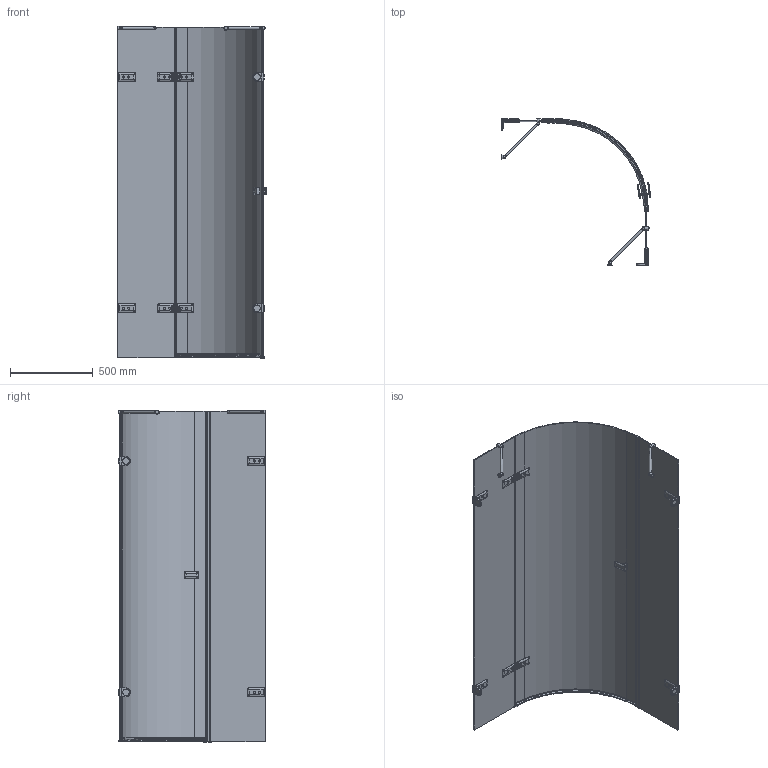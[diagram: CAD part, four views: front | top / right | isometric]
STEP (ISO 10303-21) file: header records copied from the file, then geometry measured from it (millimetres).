
FILE_DESCRIPTION(/* description */ (''),/* implementation_level */ '2;1');
FILE_NAME(/* name */ 'E:\Работа\Сергей\Душевые кабинки\! Работа\!!\TREND ROUND GK-863\TREND ROUND GK-863 правая модель\TREND ROUND GK-863 ПРАВАЯ-3D.stp',/* time_stamp */ '2017-11-18T10:01:44+03:00',/* author */ ('PC'),/* organization */ (''),/* preprocessor_version */ 'ST-DEVELOPER v15.2',/* originating_system */ 'Autodesk Inventor 2014',/* authorisation */ '');
FILE_SCHEMA (('AUTOMOTIVE_DESIGN { 1 0 10303 214 3 1 1 }'));
Products named in the file (1): TREND ROUND GK-863 ПРАВАЯ-3D
Bounding box: 902.65 x 891.5 x 2009.49 mm (x, y, z)
Volume: 19411513.9 mm3; surface area: 6492087.3 mm2
Topology: 7 solids, 20 shells, 1452 faces, 3868 edges, 2422 vertices
Faces by surface type: plane 739, cylinder 408, bspline 179, torus 72, cone 35, sphere 19
Full cylindrical faces by diameter (mm): 4.917 x8, 6 x4, 9 x8, 13 x4, 15 x2, 20 x4, 26 x2, 28 x4, 28.5 x4, 40 x4
Entity records: 65352 total; most frequent: CARTESIAN_POINT 29019, ORIENTED_EDGE 7378, DIRECTION 7036, EDGE_CURVE 3689, AXIS2_PLACEMENT_3D 2494, VERTEX_POINT 2384, LINE 2048, VECTOR 2048
